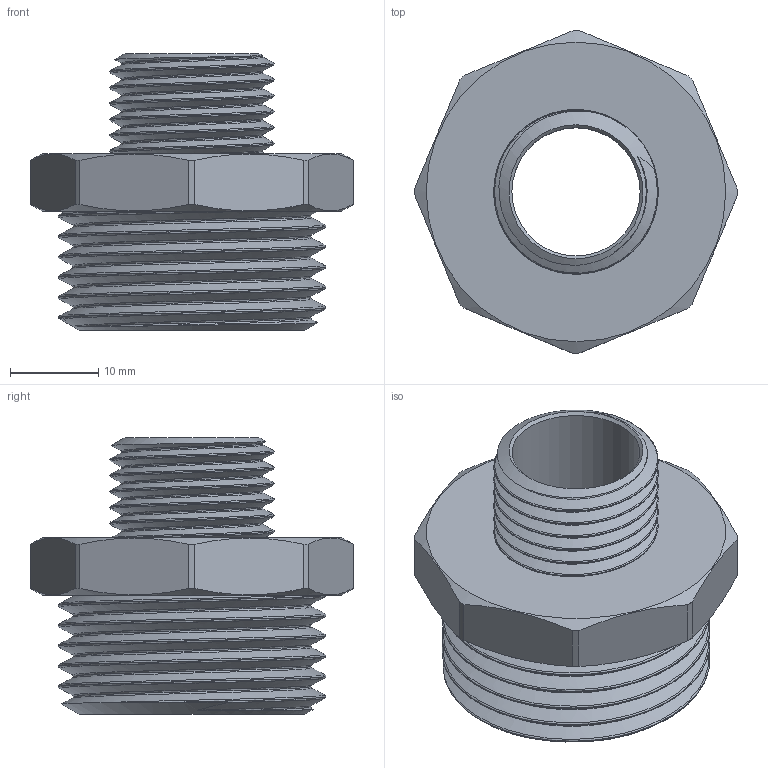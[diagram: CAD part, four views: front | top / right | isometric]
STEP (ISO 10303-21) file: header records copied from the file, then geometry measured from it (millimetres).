
FILE_DESCRIPTION(/* description */ (''),/* implementation_level */ '2;1');
FILE_NAME(/* name */ 'C:\Users\Doom\Desktop\Фадотех\Резьба\N11 17.03.2020\N11 17.03.2020.stp',/* time_stamp */ '2022-01-07T21:04:01+02:00',/* author */ ('Doom'),/* organization */ (''),/* preprocessor_version */ 'ST-DEVELOPER v18',/* originating_system */ 'Autodesk Inventor 2020',/* authorisation */ '');
FILE_SCHEMA (('AUTOMOTIVE_DESIGN { 1 0 10303 214 3 1 1 }'));
Length unit declared in the file: millimetre
Products named in the file (1): N06 18.03.2020
Bounding box: 36.5 x 36.5 x 31.33 mm (x, y, z)
Volume: 7435.1 mm3; surface area: 7239.4 mm2
Topology: 1 solids, 1 shells, 53 faces, 155 edges, 105 vertices
Faces by surface type: cylinder 22, plane 12, bspline 12, cone 7
Full cylindrical faces by diameter (mm): 14.5 x1, 18.6 x4, 24.2 x1, 30.29 x4
Entity records: 8640 total; most frequent: CARTESIAN_POINT 7362, ORIENTED_EDGE 306, DIRECTION 197, EDGE_CURVE 153, VERTEX_POINT 104, AXIS2_PLACEMENT_3D 81, B_SPLINE_CURVE_WITH_KNOTS 63, EDGE_LOOP 57
